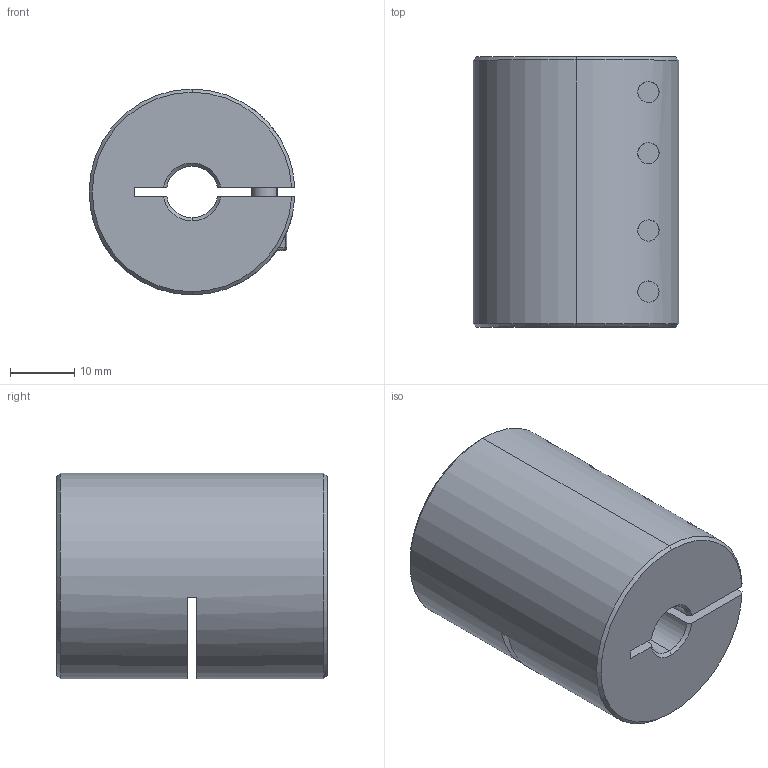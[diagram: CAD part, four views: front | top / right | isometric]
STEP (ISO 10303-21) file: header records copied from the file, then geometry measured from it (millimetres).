
FILE_DESCRIPTION (( 'STEP AP203' ), '1' );
FILE_NAME ('LL-B-D32L42-8-8.STEP', '2021-11-05T07:43:10', ( '' ), ( '' ), 'SwSTEP 2.0', 'SolidWorks 2018', '' );
FILE_SCHEMA (( 'CONFIG_CONTROL_DESIGN' ));
Length unit declared in the file: millimetre
Products named in the file (1): LL-B-D32L42-8-8
Bounding box: 31.98 x 42 x 32 mm (x, y, z)
Volume: 29192.5 mm3; surface area: 10287.1 mm2
Topology: 1 solids, 1 shells, 188 faces, 477 edges, 299 vertices
Faces by surface type: plane 86, cylinder 74, cone 20, torus 8
Entity records: 6205 total; most frequent: CARTESIAN_POINT 1529, DIRECTION 1006, ORIENTED_EDGE 938, EDGE_CURVE 469, AXIS2_PLACEMENT_3D 392, VERTEX_POINT 299, LINE 222, VECTOR 222
